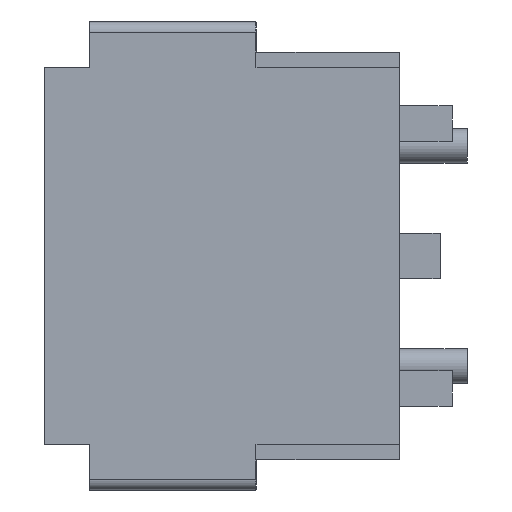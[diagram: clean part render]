
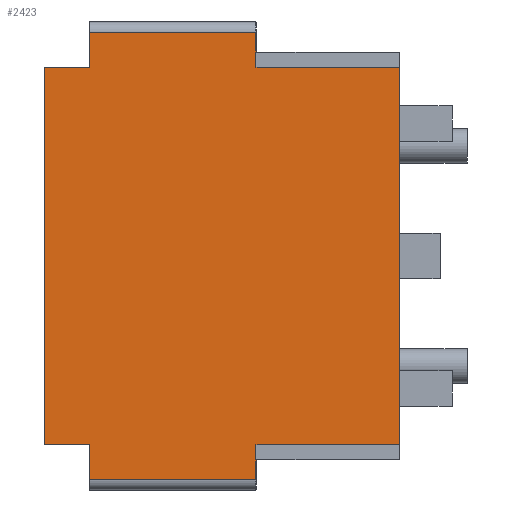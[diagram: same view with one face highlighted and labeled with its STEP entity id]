
A CAD part, left-side view. The second image highlights one B-rep face of the part: STEP entity #2423.
In plain terms, the highlighted planar face has unit normal (-1, 0, 0).
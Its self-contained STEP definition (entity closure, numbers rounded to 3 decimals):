
#14 = ORIENTED_EDGE ( 'NONE', *, *, #3840, .T. ) ;
#41 = LINE ( 'NONE', #1408, #1784 ) ;
#43 = ORIENTED_EDGE ( 'NONE', *, *, #550, .T. ) ;
#151 = LINE ( 'NONE', #3477, #1898 ) ;
#230 = PLANE ( 'NONE',  #3703 ) ;
#237 = VERTEX_POINT ( 'NONE', #3404 ) ;
#316 = VERTEX_POINT ( 'NONE', #2035 ) ;
#397 = DIRECTION ( 'NONE',  ( 0., -1., 0. ) ) ;
#550 = EDGE_CURVE ( 'NONE', #4316, #3127, #1044, .T. ) ;
#560 = DIRECTION ( 'NONE',  ( 0., -1., 0. ) ) ;
#642 = EDGE_CURVE ( 'NONE', #4316, #4216, #4201, .T. ) ;
#734 = EDGE_CURVE ( 'NONE', #4216, #4082, #151, .T. ) ;
#746 = EDGE_CURVE ( 'NONE', #1504, #316, #41, .T. ) ;
#825 = EDGE_CURVE ( 'NONE', #3224, #1488, #2379, .T. ) ;
#829 = DIRECTION ( 'NONE',  ( 0., 0., 1. ) ) ;
#891 = DIRECTION ( 'NONE',  ( 0., 0., 1. ) ) ;
#906 = EDGE_CURVE ( 'NONE', #4165, #237, #2990, .T. ) ;
#919 = CARTESIAN_POINT ( 'NONE',  ( -22.5, 23.5, -12.5 ) ) ;
#949 = DIRECTION ( 'NONE',  ( 0., 0., -1. ) ) ;
#1044 = LINE ( 'NONE', #3305, #2056 ) ;
#1045 = CARTESIAN_POINT ( 'NONE',  ( -22.5, 0., 12.5 ) ) ;
#1102 = EDGE_CURVE ( 'NONE', #2342, #4259, #3155, .T. ) ;
#1118 = ORIENTED_EDGE ( 'NONE', *, *, #906, .F. ) ;
#1141 = LINE ( 'NONE', #2477, #1931 ) ;
#1237 = CARTESIAN_POINT ( 'NONE',  ( -22.5, 0., -12.5 ) ) ;
#1254 = VECTOR ( 'NONE', #4347, 1000. ) ;
#1279 = CARTESIAN_POINT ( 'NONE',  ( -22.5, 20.5, -12.5 ) ) ;
#1300 = EDGE_CURVE ( 'NONE', #3224, #4082, #2486, .T. ) ;
#1302 = VECTOR ( 'NONE', #1613, 1000. ) ;
#1373 = ORIENTED_EDGE ( 'NONE', *, *, #734, .F. ) ;
#1408 = CARTESIAN_POINT ( 'NONE',  ( -22.5, 9.5, 12.5 ) ) ;
#1488 = VERTEX_POINT ( 'NONE', #1697 ) ;
#1504 = VERTEX_POINT ( 'NONE', #4518 ) ;
#1523 = CARTESIAN_POINT ( 'NONE',  ( -22.5, 20.5, 12.5 ) ) ;
#1535 = CARTESIAN_POINT ( 'NONE',  ( -22.5, 23.5, 12.5 ) ) ;
#1613 = DIRECTION ( 'NONE',  ( 0., 0., 1. ) ) ;
#1644 = CARTESIAN_POINT ( 'NONE',  ( -22.5, 20.5, 12.5 ) ) ;
#1665 = CARTESIAN_POINT ( 'NONE',  ( -22.5, 9.5, -12.5 ) ) ;
#1684 = CARTESIAN_POINT ( 'NONE',  ( -22.5, 9.5, -14.8 ) ) ;
#1692 = ORIENTED_EDGE ( 'NONE', *, *, #2677, .F. ) ;
#1697 = CARTESIAN_POINT ( 'NONE',  ( -22.5, 23.5, 12.5 ) ) ;
#1784 = VECTOR ( 'NONE', #3510, 1000. ) ;
#1802 = EDGE_CURVE ( 'NONE', #1488, #4165, #2174, .T. ) ;
#1814 = CARTESIAN_POINT ( 'NONE',  ( -22.5, 23.5, -12.5 ) ) ;
#1898 = VECTOR ( 'NONE', #2440, 1000. ) ;
#1916 = ORIENTED_EDGE ( 'NONE', *, *, #642, .F. ) ;
#1931 = VECTOR ( 'NONE', #397, 1000. ) ;
#2030 = DIRECTION ( 'NONE',  ( 0., 1., 0. ) ) ;
#2035 = CARTESIAN_POINT ( 'NONE',  ( -22.5, 9.5, 14.8 ) ) ;
#2056 = VECTOR ( 'NONE', #891, 1000. ) ;
#2079 = ORIENTED_EDGE ( 'NONE', *, *, #1300, .T. ) ;
#2165 = VECTOR ( 'NONE', #560, 1000. ) ;
#2174 = LINE ( 'NONE', #1535, #1254 ) ;
#2322 = FACE_OUTER_BOUND ( 'NONE', #3812, .T. ) ;
#2328 = VECTOR ( 'NONE', #2030, 1000. ) ;
#2342 = VERTEX_POINT ( 'NONE', #1237 ) ;
#2374 = CARTESIAN_POINT ( 'NONE',  ( -22.5, 20.5, -14.8 ) ) ;
#2379 = LINE ( 'NONE', #1814, #3208 ) ;
#2420 = VECTOR ( 'NONE', #3128, 1000. ) ;
#2423 = ADVANCED_FACE ( 'NONE', ( #2322 ), #230, .F. ) ;
#2440 = DIRECTION ( 'NONE',  ( 0., 0., 1. ) ) ;
#2477 = CARTESIAN_POINT ( 'NONE',  ( -22.5, 23.5, 12.5 ) ) ;
#2486 = LINE ( 'NONE', #919, #2165 ) ;
#2501 = CARTESIAN_POINT ( 'NONE',  ( -22.5, 9.5, 14.8 ) ) ;
#2668 = CARTESIAN_POINT ( 'NONE',  ( -22.5, 23.5, -12.5 ) ) ;
#2677 = EDGE_CURVE ( 'NONE', #1504, #4259, #1141, .T. ) ;
#2692 = LINE ( 'NONE', #2501, #4453 ) ;
#2765 = CARTESIAN_POINT ( 'NONE',  ( -22.5, 23.5, -12.5 ) ) ;
#2810 = CARTESIAN_POINT ( 'NONE',  ( -22.5, 9.5, -14.8 ) ) ;
#2857 = DIRECTION ( 'NONE',  ( 0., 1., 0. ) ) ;
#2990 = LINE ( 'NONE', #1523, #3101 ) ;
#3029 = DIRECTION ( 'NONE',  ( 1., 0., 0. ) ) ;
#3101 = VECTOR ( 'NONE', #829, 1000. ) ;
#3127 = VERTEX_POINT ( 'NONE', #1665 ) ;
#3128 = DIRECTION ( 'NONE',  ( 0., -1., 0. ) ) ;
#3155 = LINE ( 'NONE', #3708, #1302 ) ;
#3175 = ORIENTED_EDGE ( 'NONE', *, *, #1102, .T. ) ;
#3208 = VECTOR ( 'NONE', #3915, 1000. ) ;
#3224 = VERTEX_POINT ( 'NONE', #3511 ) ;
#3305 = CARTESIAN_POINT ( 'NONE',  ( -22.5, 9.5, -12.5 ) ) ;
#3359 = LINE ( 'NONE', #2765, #2420 ) ;
#3404 = CARTESIAN_POINT ( 'NONE',  ( -22.5, 20.5, 14.8 ) ) ;
#3477 = CARTESIAN_POINT ( 'NONE',  ( -22.5, 20.5, -12.5 ) ) ;
#3510 = DIRECTION ( 'NONE',  ( 0., 0., 1. ) ) ;
#3511 = CARTESIAN_POINT ( 'NONE',  ( -22.5, 23.5, -12.5 ) ) ;
#3667 = ORIENTED_EDGE ( 'NONE', *, *, #746, .T. ) ;
#3703 = AXIS2_PLACEMENT_3D ( 'NONE', #2668, #3029, #949 ) ;
#3708 = CARTESIAN_POINT ( 'NONE',  ( -22.5, 0., -12.5 ) ) ;
#3725 = ORIENTED_EDGE ( 'NONE', *, *, #825, .F. ) ;
#3751 = ORIENTED_EDGE ( 'NONE', *, *, #1802, .F. ) ;
#3812 = EDGE_LOOP ( 'NONE', ( #3175, #1692, #3667, #4151, #1118, #3751, #3725, #2079, #1373, #1916, #43, #14 ) ) ;
#3840 = EDGE_CURVE ( 'NONE', #3127, #2342, #3359, .T. ) ;
#3915 = DIRECTION ( 'NONE',  ( 0., 0., 1. ) ) ;
#4082 = VERTEX_POINT ( 'NONE', #1279 ) ;
#4151 = ORIENTED_EDGE ( 'NONE', *, *, #4404, .T. ) ;
#4165 = VERTEX_POINT ( 'NONE', #1644 ) ;
#4201 = LINE ( 'NONE', #1684, #2328 ) ;
#4216 = VERTEX_POINT ( 'NONE', #2374 ) ;
#4259 = VERTEX_POINT ( 'NONE', #1045 ) ;
#4316 = VERTEX_POINT ( 'NONE', #2810 ) ;
#4347 = DIRECTION ( 'NONE',  ( 0., -1., 0. ) ) ;
#4404 = EDGE_CURVE ( 'NONE', #316, #237, #2692, .T. ) ;
#4453 = VECTOR ( 'NONE', #2857, 1000. ) ;
#4518 = CARTESIAN_POINT ( 'NONE',  ( -22.5, 9.5, 12.5 ) ) ;
